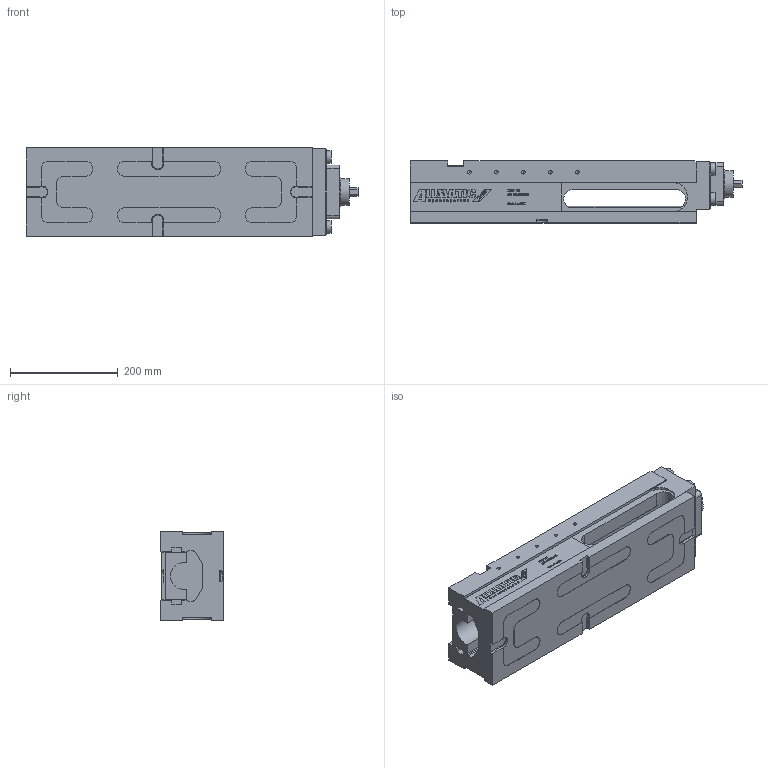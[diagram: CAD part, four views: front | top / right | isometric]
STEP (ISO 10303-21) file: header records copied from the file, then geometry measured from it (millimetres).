
FILE_DESCRIPTION (( 'STEP AP214' ), '1' );
FILE_NAME ('6921928000055.STEP', '2018-01-11T10:55:44', ( 'user' ), ( 'Hewlett-Packard Company' ), 'SwSTEP 2.0', 'SolidWorks 2016', '' );
FILE_SCHEMA (( 'AUTOMOTIVE_DESIGN' ));
Length unit declared in the file: millimetre
Products named in the file (1): 6921928000055
Bounding box: 615 x 115 x 164 mm (x, y, z)
Volume: 7055425.4 mm3; surface area: 671831.1 mm2
Topology: 2 solids, 2 shells, 2093 faces, 5678 edges, 3765 vertices
Faces by surface type: plane 1502, bspline 389, cylinder 150, cone 48, torus 4
Full cylindrical faces by diameter (mm): 6.8 x10, 10.2 x4, 14 x14, 16 x4, 23 x4, 49.5 x1, 55 x1
Entity records: 108756 total; most frequent: CARTESIAN_POINT 37962, ORIENTED_EDGE 11126, DIRECTION 8489, EDGE_CURVE 5563, LINE 4431, VECTOR 4431, VERTEX_POINT 3732, EDGE_LOOP 2355
